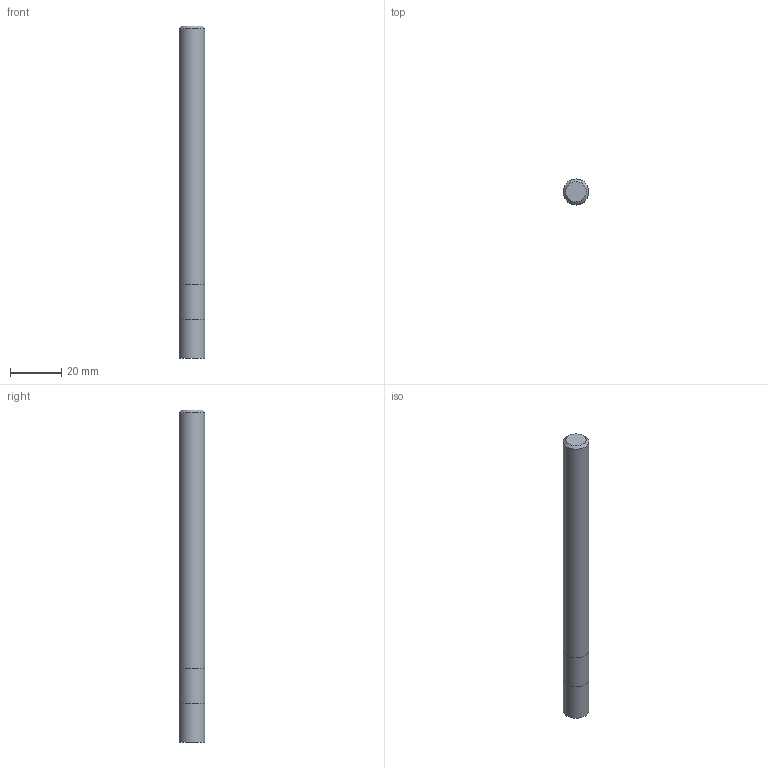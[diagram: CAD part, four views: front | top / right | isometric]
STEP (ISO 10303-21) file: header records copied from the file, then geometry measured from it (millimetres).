
FILE_DESCRIPTION((''),'2;1');
FILE_NAME('C:\Users\nsx150\AppData\Local\Temp\Mastercam 2021\EUJSUNXURU\TEMP.step','2021-04-22T10:29:55',(''),(''),'STEP Write','Mastercam 2021 ... CNC Software, Inc.','');
FILE_SCHEMA(('AUTOMOTIVE_DESIGN'));
Length unit declared in the file: millimetre
Products named in the file (1): None
Bounding box: 10 x 10 x 130 mm (x, y, z)
Volume: 10195.5 mm3; surface area: 4378.5 mm2
Topology: 2 solids, 2 shells, 8 faces, 10 edges, 6 vertices
Faces by surface type: plane 4, cylinder 3, cone 1
Full cylindrical faces by diameter (mm): 10 x3
Entity records: 190 total; most frequent: DIRECTION 32, CARTESIAN_POINT 22, AXIS2_PLACEMENT_3D 16, ORIENTED_EDGE 12, EDGE_LOOP 12, STYLED_ITEM 11, ADVANCED_FACE 8, FACE_BOUND 7
